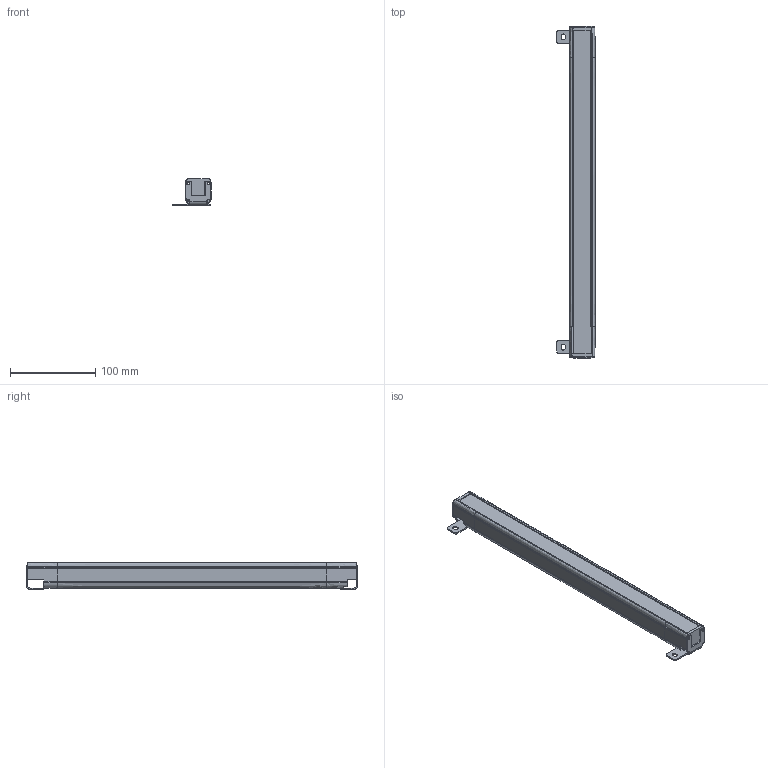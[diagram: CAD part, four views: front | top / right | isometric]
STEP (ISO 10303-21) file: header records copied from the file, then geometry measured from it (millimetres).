
FILE_DESCRIPTION(/* description */ (''),/* implementation_level */ '2;1');
FILE_NAME(/* name */ '3810(30X30).stp',/* time_stamp */ '2020-07-14T11:55:20+08:00',/* author */ (''),/* organization */ (''),/* preprocessor_version */ 'ST-DEVELOPER v16',/* originating_system */ 'SIEMENS PLM Software NX 10.0',/* authorisation */ '');
FILE_SCHEMA (('AP203_CONFIGURATION_CONTROLLED_3D_DESIGN_OF_MECHANICAL_PARTS_AND_ASSEMBLIES_MIM_LF { 1 0 10303 403 2 1 2}'));
Length unit declared in the file: millimetre
Products named in the file (1): Admi58A03253m5u8
Bounding box: 44.89 x 388.4 x 31.39 mm (x, y, z)
Volume: 119932.9 mm3; surface area: 130311.2 mm2
Topology: 6 solids, 6 shells, 441 faces, 1311 edges, 871 vertices
Faces by surface type: plane 256, cylinder 132, cone 32, bspline 14, extrusion 7
Full cylindrical faces by diameter (mm): 1.5 x2, 3.2 x8, 3.5 x8
Entity records: 15674 total; most frequent: CARTESIAN_POINT 3867, ORIENTED_EDGE 2528, DIRECTION 2314, EDGE_CURVE 1264, VECTOR 856, VERTEX_POINT 855, LINE 849, AXIS2_PLACEMENT_3D 729
